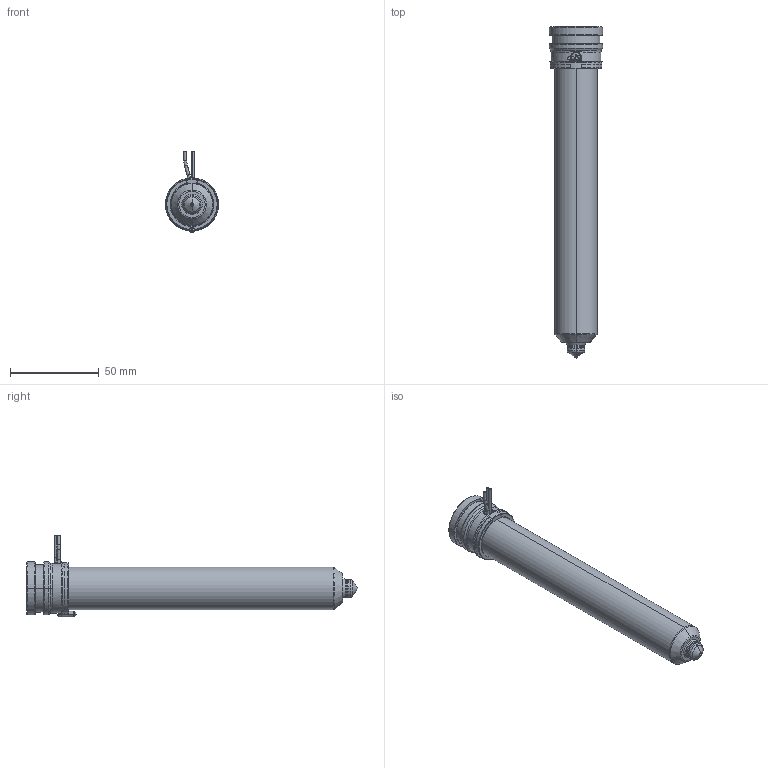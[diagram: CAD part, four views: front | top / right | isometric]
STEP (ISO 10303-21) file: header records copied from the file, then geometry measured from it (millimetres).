
FILE_DESCRIPTION((''),'2;1');
FILE_NAME('MPN-10-29-TX10-166-A','2026-02-11T11:17:48',('UVRWS'),('Thermoplay S.p.A.'),'CREO PARAMETRIC BY PTC INC, 2023494','CREO PARAMETRIC BY PTC INC, 2023494','');
FILE_SCHEMA(('CONFIG_CONTROL_DESIGN','SHAPE_APPEARANCE_LAYERS_GROUPS'));
Length unit declared in the file: millimetre
Products named in the file (1): MPN-10-29-TX10-166-A
Bounding box: 30 x 187.5 x 46 mm (x, y, z)
Volume: 57968.7 mm3; surface area: 58584.9 mm2
Topology: 2 solids, 3 shells, 551 faces, 1455 edges, 899 vertices
Faces by surface type: cylinder 180, plane 143, bspline 79, torus 68, cone 66, sphere 11, extrusion 4
Entity records: 31347 total; most frequent: CARTESIAN_POINT 14991, ORIENTED_EDGE 2894, DIRECTION 2641, EDGE_CURVE 1447, AXIS2_PLACEMENT_3D 1045, VERTEX_POINT 899, EDGE_LOOP 580, CIRCLE 576
